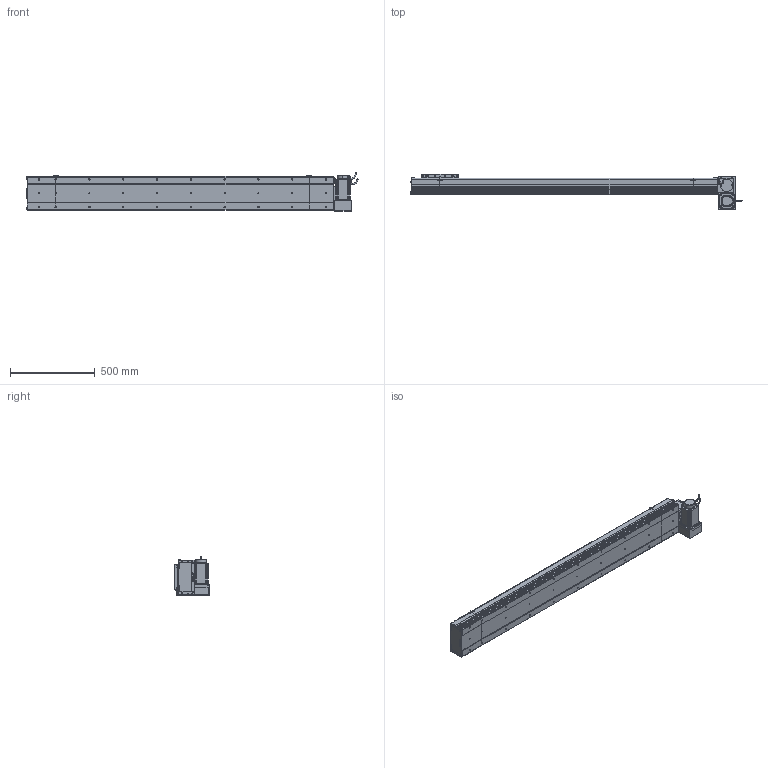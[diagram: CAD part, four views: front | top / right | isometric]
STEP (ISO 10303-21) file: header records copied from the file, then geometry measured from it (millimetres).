
FILE_DESCRIPTION (( 'STEP AP214' ), '1' );
FILE_NAME ('D20 CBH RU S1500.STEP', '2010-06-30T09:30:41', ( 'Conseil Régional Haute-Normandie' ), ( 'Conseil Régional Haute-Normandie' ), 'SwSTEP 2.0', 'SolidWorks 2010', '' );
FILE_SCHEMA (( 'AUTOMOTIVE_DESIGN' ));
Length unit declared in the file: millimetre
Products named in the file (31): Chariot D20_Default; Couvercle_Default; Corp Tail D20+100_Default; Tail D20+100_Default; vis M5 L15_Default; Plaque De Serrage D20_Default; Plaque de Bout Tail D20_Default; Couvercle S1500_Default; Corp S1500_Default; Corp D20 S1500_Default; Glissiere_Default; Head RU_Default; D20 CBH RU S1500; Corp Tail D20 RU_Default; Support moteur RU_Default; Plaque de Bout Head D20 RU_Default; Cache Support Moteur RU_Default; Plaque De Serrage D20 RU_Default; Couvercle RU_Default; avant 90BLDC125A-640; Moteur motionking 90BLDC125A-640; Rondelle Cache D20 RU_Default; Conecteur2_Default; codeur 90BLDC125-640; corps 90BLDC125A-640; ecrou_Default; vis M5 L30_Default; Conecteur_Default; Support Chariot D20_Default; vis M5 L47_Default
Assembly tree (66 placements, depth 4):
  D20 CBH RU S1500
    Tail D20+100_Default
      vis M5 L15_Default  x6
      Plaque De Serrage D20_Default
      Plaque de Bout Tail D20_Default
      Couvercle_Default
      Corp Tail D20+100_Default
    Corp D20 S1500_Default
      Corp S1500_Default
      Couvercle S1500_Default
    Chariot D20_Default
      vis M5 L15_Default  x8
      Glissiere_Default
      Chariot D20_Default
      Support Chariot D20_Default
    Head RU_Default
      Couvercle RU_Default
      Plaque De Serrage D20 RU_Default
      vis M5 L15_Default  x12
      vis M5 L47_Default  x4
      Plaque de Bout Head D20 RU_Default
      ecrou_Default  x4
      vis M5 L30_Default  x4
      Moteur motionking 90BLDC125A-640
        codeur 90BLDC125-640
        avant 90BLDC125A-640
        corps 90BLDC125A-640
        Conecteur2_Default
        Conecteur_Default
      Rondelle Cache D20 RU_Default  x3
      Corp Tail D20 RU_Default
      Cache Support Moteur RU_Default
      Support moteur RU_Default
Bounding box: 1964.45 x 209 x 229.7 mm (x, y, z)
Volume: 13764353.9 mm3; surface area: 2726452.4 mm2
Topology: 103 solids, 103 shells, 3754 faces, 9380 edges, 6094 vertices
Faces by surface type: plane 2093, bspline 806, cylinder 692, torus 91, cone 68, sphere 4
Entity records: 159094 total; most frequent: CARTESIAN_POINT 82266, ORIENTED_EDGE 15228, DIRECTION 11538, EDGE_CURVE 7614, VERTEX_POINT 5038, LINE 4942, VECTOR 4942, AXIS2_PLACEMENT_3D 3298
